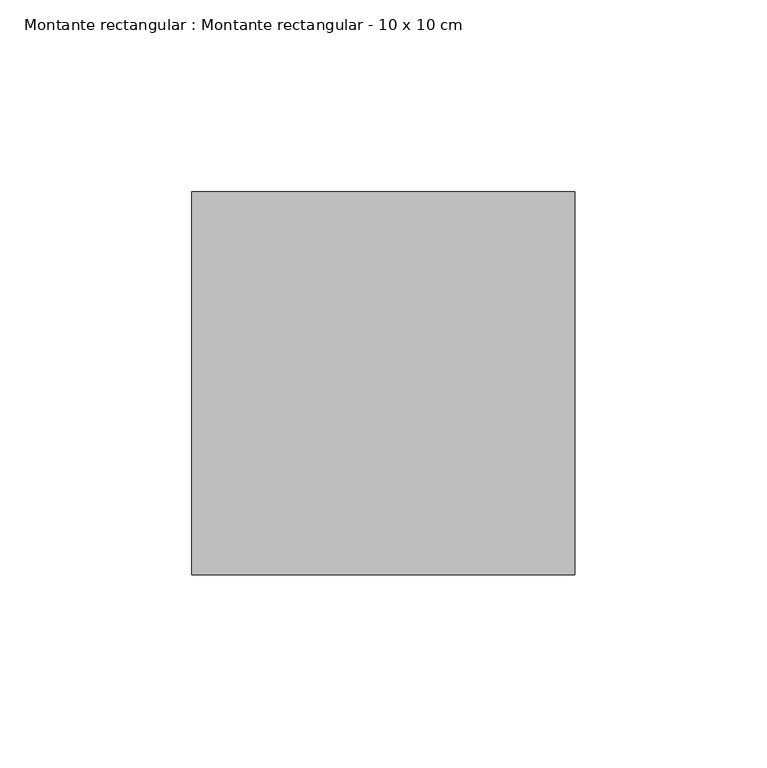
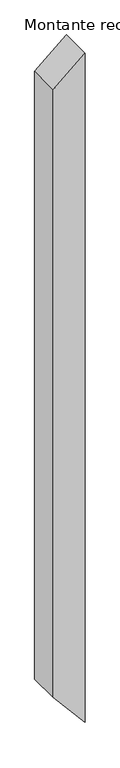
"""IFC4 building model written with IfcOpenShell, lengths in millimetres: member geometry, Montante rectangular : Montante rectangular - 10 x 10 cm."""

from ifc_helpers import new_model, si_unit, frame, origin, place, context, project, spatial, polyline, outline, extrude, source, transform, mapped, element, save


def montante_rectangular_montante_rectangular_10_x_10_cm_84f536c5(model_context):
    return source(origin(), model_context, "Body", "SweptSolid", [
        extrude(outline(polyline([(0.0, 0.0), (-85.1194721, -100.0), (-2090.8733689, -100.0), (-2208.3553005, 0.0), (0.0, 0.0)])), frame((0.0, -50.0, 0.0), z_axis=(0.0, 1.0, 0.0), x_axis=(0.0, 0.0, 1.0)), (0.0, 0.0, 1.0), 100.0),
    ])


if __name__ == "__main__":
    model = new_model("IFC4")
    model_context = context("Model", 3, world=origin())
    ifc_project = project(units=[si_unit("LENGTHUNIT", "METRE", prefix="MILLI")], contexts=[model_context])
    site = spatial("IfcSite", under=ifc_project)
    building = spatial("IfcBuilding", under=site)
    placement = place(None, origin())
    montante_rectangular_montante_rectangular_10_x_10_cm_shape = montante_rectangular_montante_rectangular_10_x_10_cm_84f536c5(model_context)
    element("IfcMember", 1, ObjectType="Montante rectangular : Montante rectangular - 10 x 10 cm", at=placement, inside=building, context=model_context, shape_type="MappedRepresentation", body=[
        mapped(montante_rectangular_montante_rectangular_10_x_10_cm_shape, transform((0.0, 0.0, 0.0), x_axis=(1.0, 0.0, 0.0), y_axis=(0.0, 1.0, 0.0), z_axis=(0.0, 0.0, 1.0))),
    ])
    save(model, "model.ifc")
